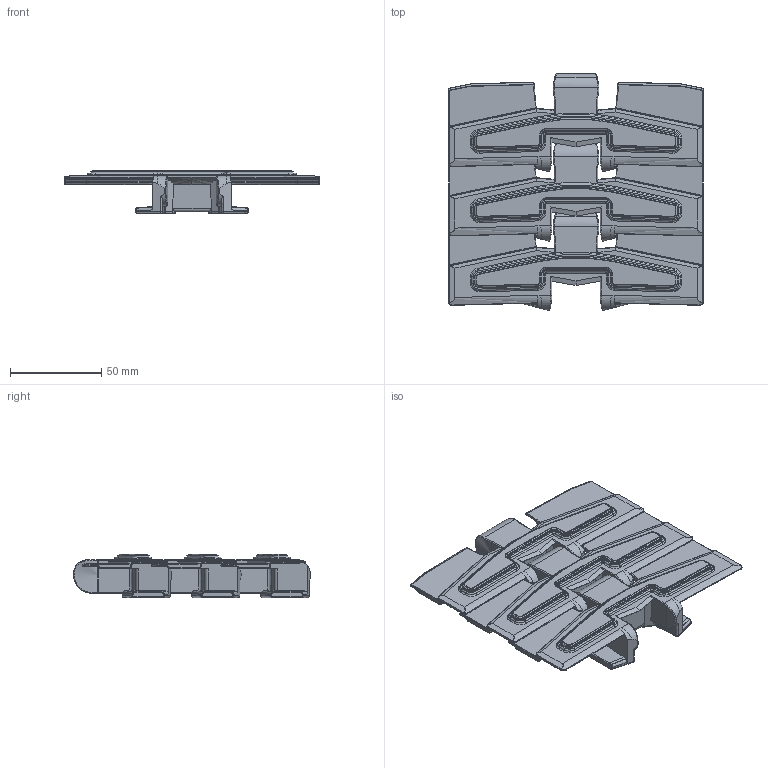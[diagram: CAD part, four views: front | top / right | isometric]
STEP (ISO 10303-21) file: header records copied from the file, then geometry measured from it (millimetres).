
FILE_DESCRIPTION(('STEP AP214'),'1');
FILE_NAME('P11710120','2017-02-13T07:46:16',('dentellad'),(' '),'Spatial InterOp 3D',' ',' ');
FILE_SCHEMA(('automotive_design'));
Length unit declared in the file: millimetre
Products named in the file (3): 1; 2; 3
Bounding box: 140 x 130.1 x 23.8 mm (x, y, z)
Volume: 111401.5 mm3; surface area: 52635.4 mm2
Topology: 3 solids, 3 shells, 1443 faces, 3768 edges, 2232 vertices
Faces by surface type: bspline 831, plane 309, cylinder 162, torus 102, cone 27, revolution 12
Entity records: 89408 total; most frequent: CARTESIAN_POINT 32619, ORIENTED_EDGE 7326, STYLED_ITEM 5103, PRESENTATION_STYLE_ASSIGNMENT 5103, COLOUR_RGB 5103, EDGE_CURVE 3663, CURVE_STYLE 3657, DRAUGHTING_PRE_DEFINED_CURVE_FONT 3657
